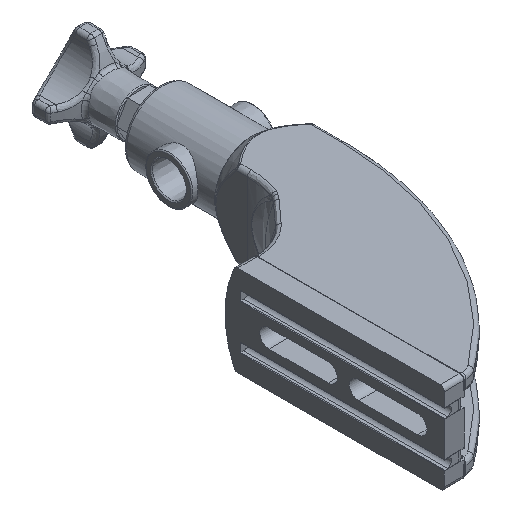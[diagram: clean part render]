
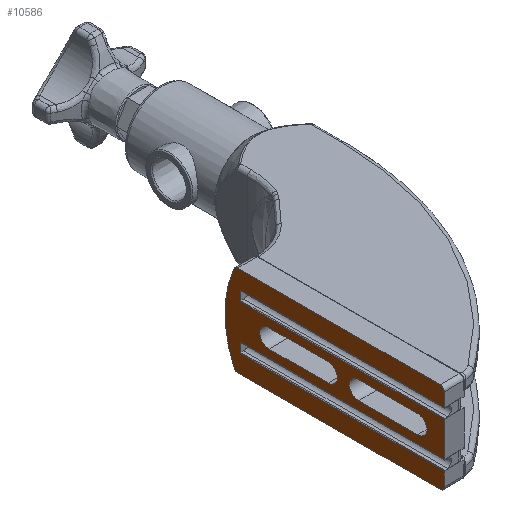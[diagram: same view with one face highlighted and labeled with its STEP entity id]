
A CAD part, isometric view. The second image highlights one B-rep face of the part: STEP entity #10586.
In plain terms, the highlighted planar face has unit normal (-1, 0, 0).
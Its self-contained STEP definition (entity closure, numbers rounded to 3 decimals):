
#369=ELLIPSE('',#11209,2.001,2.);
#370=ELLIPSE('',#11211,2.001,2.);
#371=ELLIPSE('',#11225,2.001,2.);
#372=ELLIPSE('',#11227,2.001,2.);
#929=LINE('',#15040,#1383);
#934=LINE('',#15055,#1388);
#940=LINE('',#15077,#1394);
#942=LINE('',#15088,#1396);
#947=LINE('',#15100,#1401);
#950=LINE('',#15106,#1404);
#953=LINE('',#15115,#1407);
#955=LINE('',#15122,#1409);
#958=LINE('',#15135,#1412);
#990=LINE('',#17264,#1444);
#991=LINE('',#17266,#1445);
#992=LINE('',#17267,#1446);
#993=LINE('',#17269,#1447);
#994=LINE('',#17271,#1448);
#995=LINE('',#17272,#1449);
#1383=VECTOR('',#12361,10.);
#1388=VECTOR('',#12374,10.);
#1394=VECTOR('',#12390,99.325);
#1396=VECTOR('',#12396,6.855);
#1401=VECTOR('',#12407,17.209);
#1404=VECTOR('',#12412,10.);
#1407=VECTOR('',#12423,10.);
#1409=VECTOR('',#12433,6.855);
#1412=VECTOR('',#12440,99.325);
#1444=VECTOR('',#12592,100.);
#1445=VECTOR('',#12593,4.791);
#1446=VECTOR('',#12594,100.);
#1447=VECTOR('',#12595,100.);
#1448=VECTOR('',#12596,4.791);
#1449=VECTOR('',#12597,100.);
#1896=FACE_BOUND('',#2640,.T.);
#1897=FACE_BOUND('',#2641,.T.);
#2023=FACE_OUTER_BOUND('',#2639,.T.);
#2639=EDGE_LOOP('',(#6837,#6838,#6839,#6840,#6841,#6842,#6843,#6844,#6845,
#6846,#6847,#6848,#6849,#6850,#6851,#6852));
#2640=EDGE_LOOP('',(#6853,#6854,#6855,#6856));
#2641=EDGE_LOOP('',(#6857,#6858,#6859,#6860));
#3266=CIRCLE('',#11204,4.5);
#3268=CIRCLE('',#11208,4.5);
#3271=CIRCLE('',#11219,4.5);
#3273=CIRCLE('',#11223,4.5);
#3281=CIRCLE('',#11244,51.33);
#3801=VERTEX_POINT('',#14922);
#3805=VERTEX_POINT('',#14931);
#3808=VERTEX_POINT('',#14938);
#3837=VERTEX_POINT('',#15037);
#3838=VERTEX_POINT('',#15039);
#3840=VERTEX_POINT('',#15045);
#3843=VERTEX_POINT('',#15052);
#3844=VERTEX_POINT('',#15054);
#3846=VERTEX_POINT('',#15060);
#3847=VERTEX_POINT('',#15069);
#3848=VERTEX_POINT('',#15071);
#3849=VERTEX_POINT('',#15075);
#3850=VERTEX_POINT('',#15084);
#3854=VERTEX_POINT('',#15095);
#3856=VERTEX_POINT('',#15104);
#3858=VERTEX_POINT('',#15113);
#3859=VERTEX_POINT('',#15120);
#3860=VERTEX_POINT('',#15129);
#3861=VERTEX_POINT('',#15133);
#3862=VERTEX_POINT('',#15142);
#3959=VERTEX_POINT('',#17263);
#3960=VERTEX_POINT('',#17265);
#3961=VERTEX_POINT('',#17268);
#3962=VERTEX_POINT('',#17270);
#4890=EDGE_CURVE('',#3838,#3837,#929,.T.);
#4894=EDGE_CURVE('',#3837,#3840,#3266,.T.);
#4897=EDGE_CURVE('',#3844,#3843,#934,.T.);
#4901=EDGE_CURVE('',#3843,#3846,#3268,.T.);
#4903=EDGE_CURVE('',#3848,#3847,#369,.T.);
#4906=EDGE_CURVE('',#3849,#3847,#940,.T.);
#4908=EDGE_CURVE('',#3849,#3850,#370,.T.);
#4909=EDGE_CURVE('',#3801,#3850,#942,.T.);
#4915=EDGE_CURVE('',#3805,#3854,#947,.T.);
#4918=EDGE_CURVE('',#3840,#3856,#950,.T.);
#4920=EDGE_CURVE('',#3856,#3838,#3271,.T.);
#4923=EDGE_CURVE('',#3846,#3858,#953,.T.);
#4925=EDGE_CURVE('',#3858,#3844,#3273,.T.);
#4927=EDGE_CURVE('',#3859,#3808,#955,.T.);
#4929=EDGE_CURVE('',#3859,#3860,#371,.T.);
#4931=EDGE_CURVE('',#3861,#3860,#958,.T.);
#4933=EDGE_CURVE('',#3861,#3862,#372,.T.);
#4965=EDGE_CURVE('',#3862,#3848,#3281,.T.);
#5059=EDGE_CURVE('',#3801,#3959,#990,.T.);
#5060=EDGE_CURVE('',#3959,#3960,#991,.T.);
#5061=EDGE_CURVE('',#3960,#3854,#992,.T.);
#5062=EDGE_CURVE('',#3805,#3961,#993,.T.);
#5063=EDGE_CURVE('',#3961,#3962,#994,.T.);
#5064=EDGE_CURVE('',#3962,#3808,#995,.T.);
#6837=ORIENTED_EDGE('',*,*,#4909,.F.);
#6838=ORIENTED_EDGE('',*,*,#5059,.T.);
#6839=ORIENTED_EDGE('',*,*,#5060,.T.);
#6840=ORIENTED_EDGE('',*,*,#5061,.T.);
#6841=ORIENTED_EDGE('',*,*,#4915,.F.);
#6842=ORIENTED_EDGE('',*,*,#5062,.T.);
#6843=ORIENTED_EDGE('',*,*,#5063,.T.);
#6844=ORIENTED_EDGE('',*,*,#5064,.T.);
#6845=ORIENTED_EDGE('',*,*,#4927,.F.);
#6846=ORIENTED_EDGE('',*,*,#4929,.T.);
#6847=ORIENTED_EDGE('',*,*,#4931,.F.);
#6848=ORIENTED_EDGE('',*,*,#4933,.T.);
#6849=ORIENTED_EDGE('',*,*,#4965,.T.);
#6850=ORIENTED_EDGE('',*,*,#4903,.T.);
#6851=ORIENTED_EDGE('',*,*,#4906,.F.);
#6852=ORIENTED_EDGE('',*,*,#4908,.T.);
#6853=ORIENTED_EDGE('',*,*,#4890,.T.);
#6854=ORIENTED_EDGE('',*,*,#4894,.T.);
#6855=ORIENTED_EDGE('',*,*,#4918,.T.);
#6856=ORIENTED_EDGE('',*,*,#4920,.T.);
#6857=ORIENTED_EDGE('',*,*,#4897,.T.);
#6858=ORIENTED_EDGE('',*,*,#4901,.T.);
#6859=ORIENTED_EDGE('',*,*,#4923,.T.);
#6860=ORIENTED_EDGE('',*,*,#4925,.T.);
#9861=PLANE('',#11286);
#10586=ADVANCED_FACE('',(#2023,#1896,#1897),#9861,.F.);
#11204=AXIS2_PLACEMENT_3D('',#15047,#12368,#12369);
#11208=AXIS2_PLACEMENT_3D('',#15062,#12381,#12382);
#11209=AXIS2_PLACEMENT_3D('',#15072,#12384,#12385);
#11211=AXIS2_PLACEMENT_3D('',#15086,#12392,#12393);
#11219=AXIS2_PLACEMENT_3D('',#15109,#12417,#12418);
#11223=AXIS2_PLACEMENT_3D('',#15118,#12428,#12429);
#11225=AXIS2_PLACEMENT_3D('',#15131,#12435,#12436);
#11227=AXIS2_PLACEMENT_3D('',#15144,#12442,#12443);
#11244=AXIS2_PLACEMENT_3D('',#15469,#12486,#12487);
#11286=AXIS2_PLACEMENT_3D('',#17262,#12590,#12591);
#12361=DIRECTION('',(0.,1.,0.));
#12368=DIRECTION('center_axis',(1.,0.,0.));
#12369=DIRECTION('ref_axis',(0.,0.,-1.));
#12374=DIRECTION('',(0.,1.,0.));
#12381=DIRECTION('center_axis',(1.,0.,0.));
#12382=DIRECTION('ref_axis',(0.,0.,-1.));
#12384=DIRECTION('center_axis',(-1.,0.,0.));
#12385=DIRECTION('ref_axis',(0.,-0.411,-0.912));
#12390=DIRECTION('',(0.,1.,0.));
#12392=DIRECTION('center_axis',(-1.,0.,0.));
#12393=DIRECTION('ref_axis',(0.,0.707,0.707));
#12396=DIRECTION('',(0.,0.,-1.));
#12407=DIRECTION('',(0.,0.,-1.));
#12412=DIRECTION('',(0.,-1.,0.));
#12417=DIRECTION('center_axis',(1.,0.,0.));
#12418=DIRECTION('ref_axis',(0.,0.,1.));
#12423=DIRECTION('',(0.,-1.,0.));
#12428=DIRECTION('center_axis',(1.,0.,0.));
#12429=DIRECTION('ref_axis',(0.,0.,1.));
#12433=DIRECTION('',(0.,0.,-1.));
#12435=DIRECTION('center_axis',(-1.,0.,0.));
#12436=DIRECTION('ref_axis',(0.,0.707,-0.707));
#12440=DIRECTION('',(0.,-1.,0.));
#12442=DIRECTION('center_axis',(-1.,0.,0.));
#12443=DIRECTION('ref_axis',(0.,0.411,-0.912));
#12486=DIRECTION('center_axis',(-1.,0.,0.));
#12487=DIRECTION('ref_axis',(0.,0.,1.));
#12590=DIRECTION('center_axis',(1.,0.,0.));
#12591=DIRECTION('ref_axis',(0.,0.,-1.));
#12592=DIRECTION('',(0.,1.,0.));
#12593=DIRECTION('',(0.,0.,1.));
#12594=DIRECTION('',(0.,-1.,0.));
#12595=DIRECTION('',(0.,1.,0.));
#12596=DIRECTION('',(0.,0.,1.));
#12597=DIRECTION('',(0.,-1.,0.));
#14922=CARTESIAN_POINT('',(0.,0.,-13.396));
#14931=CARTESIAN_POINT('',(0.,0.,8.604));
#14938=CARTESIAN_POINT('',(0.,0.,13.396));
#15037=CARTESIAN_POINT('',(0.,42.,-4.5));
#15039=CARTESIAN_POINT('',(0.,13.,-4.5));
#15040=CARTESIAN_POINT('',(0.,13.,-4.5));
#15045=CARTESIAN_POINT('',(0.,42.,4.5));
#15047=CARTESIAN_POINT('Origin',(0.,42.,0.));
#15052=CARTESIAN_POINT('',(0.,86.,-4.5));
#15054=CARTESIAN_POINT('',(0.,57.,-4.5));
#15055=CARTESIAN_POINT('',(0.,57.,-4.5));
#15060=CARTESIAN_POINT('',(0.,86.,4.5));
#15062=CARTESIAN_POINT('Origin',(0.,86.,0.));
#15069=CARTESIAN_POINT('',(0.,101.325,-22.25));
#15071=CARTESIAN_POINT('',(0.,103.149,-21.07));
#15072=CARTESIAN_POINT('Origin',(0.,101.325,-20.249));
#15075=CARTESIAN_POINT('',(0.,1.999,-22.25));
#15077=CARTESIAN_POINT('',(0.,1.999,-22.25));
#15084=CARTESIAN_POINT('',(0.,0.,-20.251));
#15086=CARTESIAN_POINT('Origin',(0.,2.001,-20.249));
#15088=CARTESIAN_POINT('',(0.,0.,-13.396));
#15095=CARTESIAN_POINT('',(0.,0.,-8.604));
#15100=CARTESIAN_POINT('',(0.,0.,8.604));
#15104=CARTESIAN_POINT('',(0.,13.,4.5));
#15106=CARTESIAN_POINT('',(0.,42.,4.5));
#15109=CARTESIAN_POINT('Origin',(0.,13.,0.));
#15113=CARTESIAN_POINT('',(0.,57.,4.5));
#15115=CARTESIAN_POINT('',(0.,86.,4.5));
#15118=CARTESIAN_POINT('Origin',(0.,57.,0.));
#15120=CARTESIAN_POINT('',(0.,0.,20.251));
#15122=CARTESIAN_POINT('',(0.,0.,20.251));
#15129=CARTESIAN_POINT('',(0.,1.999,22.25));
#15131=CARTESIAN_POINT('Origin',(0.,2.001,20.249));
#15133=CARTESIAN_POINT('',(0.,101.325,22.25));
#15135=CARTESIAN_POINT('',(0.,101.325,22.25));
#15142=CARTESIAN_POINT('',(0.,103.149,21.07));
#15144=CARTESIAN_POINT('Origin',(0.,101.325,
20.249));
#15469=CARTESIAN_POINT('Origin',(0.,56.343,
0.));
#17262=CARTESIAN_POINT('Origin',(0.,0.,22.25));
#17263=CARTESIAN_POINT('',(0.,100.,-13.396));
#17264=CARTESIAN_POINT('',(0.,0.,-13.396));
#17265=CARTESIAN_POINT('',(0.,100.,-8.604));
#17266=CARTESIAN_POINT('',(0.,100.,-13.396));
#17267=CARTESIAN_POINT('',(0.,100.,-8.604));
#17268=CARTESIAN_POINT('',(0.,100.,8.604));
#17269=CARTESIAN_POINT('',(0.,0.,8.604));
#17270=CARTESIAN_POINT('',(0.,100.,13.396));
#17271=CARTESIAN_POINT('',(0.,100.,8.604));
#17272=CARTESIAN_POINT('',(0.,100.,13.396));
